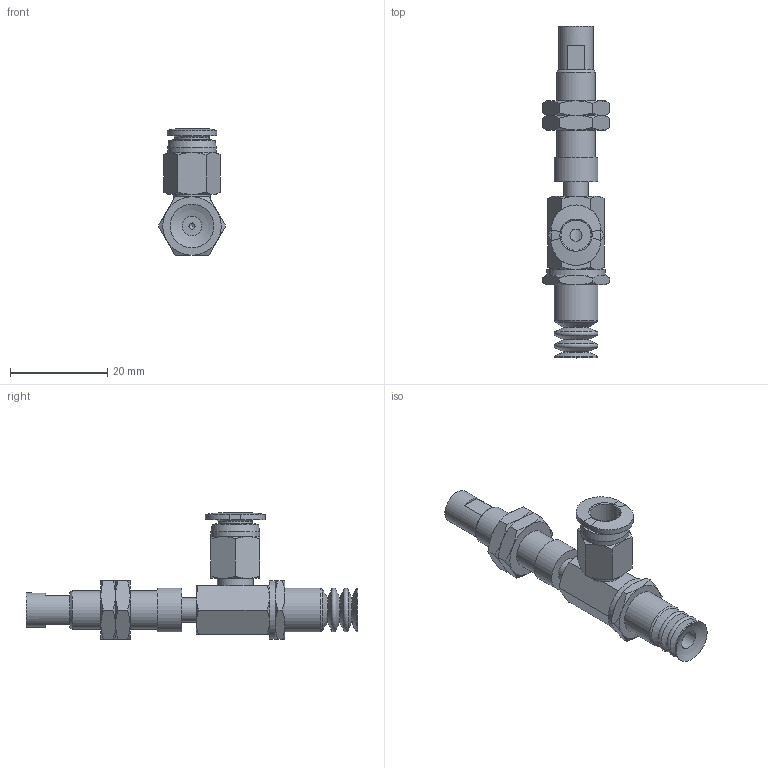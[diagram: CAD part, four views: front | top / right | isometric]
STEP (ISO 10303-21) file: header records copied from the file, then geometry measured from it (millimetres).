
FILE_DESCRIPTION(('STEP AP203'),'1');
FILE_NAME('-O.stp','2025-04-03T06:24:48',(' '),(' '),'Spatial InterOp 3D',' ',' ');
FILE_SCHEMA(('CONFIG_CONTROL_DESIGN'));
Length unit declared in the file: millimetre
Products named in the file (8): BNABPCYS-10-3-※-O; Adapter_napc-10-T; Connector_s-10-3; Nut napc_s-10-3; NAPCTS-10-3-FBODY; NAPCTS-10-3-MBODY; BPCG-10-※; PC-C_06-M5
Assembly tree (8 placements, depth 2):
  BNABPCYS-10-3-※-O
    Adapter_napc-10-T
    Connector_s-10-3
    Nut napc_s-10-3  x2
    NAPCTS-10-3-FBODY
    NAPCTS-10-3-MBODY
    BPCG-10-※
    PC-C_06-M5
Bounding box: 13.86 x 68.2 x 25.98 mm (x, y, z)
Volume: 4343 mm3; surface area: 5904.7 mm2
Topology: 7 solids, 10 shells, 210 faces, 431 edges, 255 vertices
Faces by surface type: cone 85, plane 76, cylinder 30, torus 10, bspline 4, revolution 3, sphere 2
Full cylindrical faces by diameter (mm): 1.25 x1, 4 x3, 4.134 x3, 5 x9, 7 x2, 7.188 x2, 7.4 x1, 8 x1, 8.2 x1, 9 x3, 10 x1, 12 x1
Entity records: 5536 total; most frequent: CARTESIAN_POINT 1616, DIRECTION 733, ORIENTED_EDGE 626, AXIS2_PLACEMENT_3D 333, EDGE_CURVE 315, EDGE_LOOP 276, VERTEX_POINT 222, FACE_OUTER_BOUND 166
